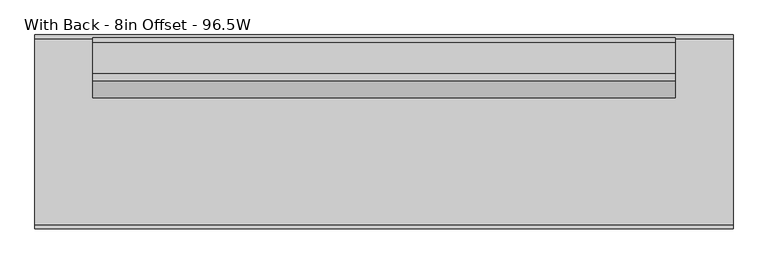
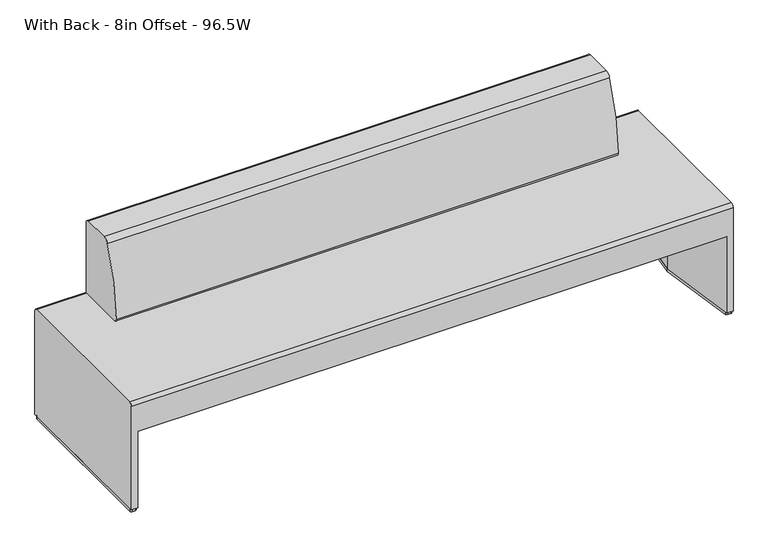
"""IFC4 building model written with IfcOpenShell, lengths in millimetres: furniture geometry, Coalesse_AM_Seating_Bench_Together_Straight : With Back - 8in Offset - 96.5W."""

from ifc_helpers import new_model, si_unit, point, frame, frame_2d, origin, origin_with_axes, place, context, project, spatial, polyline, circle_curve, trimmed, segment, composite_curve, outline, extrude, source, transform, mapped, element, save
from ifc_brep_helpers import plane_surface, cylinder_surface, advanced_brep


def with_back_8in_offset_96_5w_34442c8c(model_context):
    return source(origin(), model_context, "Body", "SolidModel", [
        advanced_brep(
        [(550.9224085, 12.7, 471.2287949), (550.9224085, 0.0, 458.5287949), (550.9224085, 0.0, 12.7976677), (550.9224085, 680.4865973, 12.7976677), (550.9224085, 680.4865973, 458.5287949), (550.9224085, 667.7865973, 471.2287949), (-1900.1775915, 12.7, 471.2287949), (-1900.1775915, 667.7865973, 471.2287949), (-1900.1775915, 680.4865973, 458.5287949), (-1900.1775915, 680.4865973, 12.7976677), (-1900.1775915, 0.0, 12.7976677), (-1900.1775915, 0.0, 458.5287949), (-1874.0008116, 0.0, 12.7976677), (-1874.0008116, 0.0, 343.3718099), (524.7467103, 0.0, 343.3718099), (524.7456286, 0.0, 12.7976677), (-1829.6693111, 337.8527218, 343.3718099), (-1874.3078635, 680.4865973, 343.3718099), (525.0526806, 680.4865973, 343.3718099), (480.4141281, 337.8527218, 343.3718099), (525.0537419, 680.4865973, 12.7976677), (-1874.3089248, 680.4865973, 12.7976677), (-1829.6693111, 337.8527218, 12.7976677), (480.4141281, 337.8527218, 12.7976677)],
        [
            (0, 1, circle_curve(frame((550.9224085, 12.7, 458.5287949), z_axis=(1.0, 0.0, 0.0), x_axis=(0.0, 1.0, 0.0)), 12.7)),
            (1, 2),
            (2, 3),
            (3, 4),
            (4, 5, circle_curve(frame((550.9224085, 667.7865973, 458.5287949), z_axis=(1.0, 0.0, 0.0), x_axis=(0.0, 1.0, 0.0)), 12.7)),
            (5, 0),
            (6, 7),
            (7, 8, circle_curve(frame((-1900.1775915, 667.7865973, 458.5287949), z_axis=(-1.0, 0.0, 0.0), x_axis=(0.0, 1.0, 0.0)), 12.7)),
            (8, 9),
            (9, 10),
            (10, 11),
            (11, 6, circle_curve(frame((-1900.1775915, 12.7, 458.5287949), z_axis=(-1.0, 0.0, 0.0), x_axis=(0.0, 1.0, 0.0)), 12.7)),
            (0, 6),
            (11, 1),
            (10, 12),
            (12, 13),
            (13, 14),
            (14, 15),
            (15, 2),
            (16, 17),
            (17, 18),
            (18, 19),
            (19, 14),
            (13, 16),
            (3, 20),
            (20, 18),
            (17, 21),
            (21, 9),
            (8, 4),
            (7, 5),
            (22, 12),
            (21, 22),
            (16, 22),
            (23, 20),
            (15, 23),
            (19, 23),
        ],
        [
            plane_surface(frame((550.9224085, 25.4, 458.5287949), z_axis=(1.0, 0.0, 0.0), x_axis=(0.0, 0.0, 1.0))),
            plane_surface(frame((-1900.1775915, 25.4, 458.5287949), z_axis=(-1.0, 0.0, 0.0), x_axis=(0.0, 0.0, -1.0))),
            cylinder_surface(frame((-1900.1775915, 12.7, 458.5287949), z_axis=(1.0, 0.0, 0.0), x_axis=(0.0, 1.0, 0.0)), 12.7),
            plane_surface(frame((550.9224085, 0.0, 458.5287949), z_axis=(0.0, -1.0, 0.0), x_axis=(-1.0, 0.0, 0.0))),
            plane_surface(frame((550.9224085, 0.0, 343.3718099), z_axis=(0.0, 0.0, -1.0), x_axis=(-1.0, 0.0, 0.0))),
            plane_surface(frame((550.9224085, 680.4865973, 343.3718099), z_axis=(0.0, 1.0, 0.0), x_axis=(-1.0, 0.0, 0.0))),
            cylinder_surface(frame((-1900.1775915, 667.7865973, 458.5287949), z_axis=(1.0, 0.0, 0.0), x_axis=(0.0, 1.0, 0.0)), 12.7),
            plane_surface(frame((550.9224085, 667.7865973, 471.2287949), z_axis=(0.0, 0.0, 1.0), x_axis=(-1.0, 0.0, 0.0))),
            plane_surface(frame((-1874.3089248, 680.4947435, 12.7976677), z_axis=(0.0, 0.0, -1.0), x_axis=(0.1291888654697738, -0.9916200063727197, 0.0))),
            plane_surface(frame((-1829.6693111, 337.8527218, 343.3718099), z_axis=(0.9916200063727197, 0.1291888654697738, 0.0), x_axis=(0.0, 0.0, -1.0))),
            plane_surface(frame((-1874.0008116, 0.0082432, 343.3718099), z_axis=(0.9915004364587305, -0.13010336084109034, 0.0), x_axis=(0.0, 0.0, -1.0))),
            plane_surface(frame((480.4141281, 337.8527218, 12.7976677), z_axis=(0.0, 0.0, -1.0), x_axis=(-0.13010336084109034, 0.9915004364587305, 0.0))),
            plane_surface(frame((480.4141281, 337.8527218, 343.3718099), z_axis=(-0.9915004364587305, -0.13010336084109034, 0.0), x_axis=(0.0, 0.0, -1.0))),
            plane_surface(frame((525.0537419, 680.4947435, 343.3718099), z_axis=(-0.9916200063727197, 0.12918886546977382, 0.0), x_axis=(0.0, 0.0, -1.0))),
        ],
        [
            (0, [[1, 2, 3, 4, 5, 6]]),
            (1, [[7, 8, 9, 10, 11, 12]]),
            (2, [[-1, 13, -12, 14]]),
            (3, [[-2, -14, -11, 15, 16, 17, 18, 19]]),
            (4, [[20, 21, 22, 23, -17, 24]]),
            (5, [[-4, 25, 26, -21, 27, 28, -9, 29]]),
            (6, [[-5, -29, -8, 30]]),
            (7, [[-6, -30, -7, -13]]),
            (8, [[31, -15, -10, -28, 32]]),
            (9, [[-32, -27, -20, 33]]),
            (10, [[-31, -33, -24, -16]]),
            (11, [[34, -25, -3, -19, 35]]),
            (12, [[-35, -18, -23, 36]]),
            (13, [[-34, -36, -22, -26]]),
        ],
    ),
        extrude(outline(composite_curve([segment(polyline([(543.9192067, 789.8987331), (655.2964795, 789.8987331)]), True, "CONTINUOUS"), segment(trimmed(circle_curve(frame_2d((655.2964795, 774.6587331)), 15.24), [point((655.2964795, 789.8987331))], [point((670.5364795, 774.6587331))], False, "CARTESIAN"), True, "CONTINUOUS"), segment(polyline([(670.5364795, 774.6587331), (670.5364795, 471.2287949), (472.3170333, 471.2287949)]), True, "CONTINUOUS"), segment(trimmed(circle_curve(frame_2d((472.3170333, 483.9287949)), 12.7), [point((472.3170333, 471.2287949))], [point((459.6227142, 484.3086129))], False, "CARTESIAN"), True, "CONTINUOUS"), segment(trimmed(circle_curve(frame_2d((1300.8534094, 459.138724)), 841.6071565), [point((459.6227142, 484.3086129))], [point((520.3637544, 774.0013994))], False, "CARTESIAN"), True, "CONTINUOUS"), segment(trimmed(circle_curve(frame_2d((543.9192067, 764.4987331)), 25.4), [point((520.3637544, 774.0013994))], [point((543.9192067, 789.8987331))], False, "CARTESIAN"), True, "CONTINUOUS")], self_intersect=False)), frame((-1696.9775915, 0.0, 0.0), z_axis=(1.0, 0.0, 0.0), x_axis=(0.0, 1.0, 0.0)), (0.0, 0.0, 1.0), 2044.7),
        extrude(outline(composite_curve([segment(polyline([(-1830.1253033, 342.7173042), (-1875.1256906, 11.5995062)]), True, "CONTINUOUS"), segment(trimmed(circle_curve(frame_2d((-1881.4178483, 12.4546385)), 6.35), [point((-1875.1256906, 11.5995062))], [point((-1881.4230349, 6.1046406))], False, "CARTESIAN"), True, "CONTINUOUS"), segment(polyline([(-1881.4230349, 6.1046406), (-1893.8802997, 6.1148157)]), True, "CONTINUOUS"), segment(trimmed(circle_curve(frame_2d((-1893.8751131, 12.4648135)), 6.35), [point((-1893.8802997, 6.1148157))], [point((-1900.225111, 12.4700002))], False, "CARTESIAN"), True, "CONTINUOUS"), segment(polyline([(-1900.225111, 12.4700002), (-1899.6895947, 668.1010803)]), True, "CONTINUOUS"), segment(trimmed(circle_curve(frame_2d((-1893.3395969, 668.0958937)), 6.35), [point((-1899.6895947, 668.1010803))], [point((-1893.3344102, 674.4458915))], False, "CARTESIAN"), True, "CONTINUOUS"), segment(polyline([(-1893.3344102, 674.4458915), (-1880.8113928, 674.4356628)]), True, "CONTINUOUS"), segment(trimmed(circle_curve(frame_2d((-1880.8171357, 667.4047129)), 7.0309522), [point((-1880.8113928, 674.4356628))], [point((-1873.8487233, 668.3404046))], False, "CARTESIAN"), True, "CONTINUOUS"), segment(polyline([(-1873.8487233, 668.3404046), (-1830.1253033, 342.7173042)]), True, "CONTINUOUS")], self_intersect=False)), origin_with_axes(), (0.0, 0.0, 1.0), 12.7976677),
        extrude(outline(composite_curve([segment(polyline([(480.8701204, 342.7173042), (524.5935403, 668.3404046)]), True, "CONTINUOUS"), segment(trimmed(circle_curve(frame_2d((531.5619527, 667.4047129)), 7.0309522), [point((524.5935403, 668.3404046))], [point((531.5562098, 674.4356628))], False, "CARTESIAN"), True, "CONTINUOUS"), segment(polyline([(531.5562098, 674.4356628), (544.0792272, 674.4458915)]), True, "CONTINUOUS"), segment(trimmed(circle_curve(frame_2d((544.0844139, 668.0958937)), 6.35), [point((544.0792272, 674.4458915))], [point((550.4344118, 668.1010803))], False, "CARTESIAN"), True, "CONTINUOUS"), segment(polyline([(550.4344118, 668.1010803), (550.969928, 12.4700002)]), True, "CONTINUOUS"), segment(trimmed(circle_curve(frame_2d((544.6199301, 12.4648135)), 6.35), [point((550.969928, 12.4700002))], [point((544.6251168, 6.1148157))], False, "CARTESIAN"), True, "CONTINUOUS"), segment(polyline([(544.6251168, 6.1148157), (532.167852, 6.1046406)]), True, "CONTINUOUS"), segment(trimmed(circle_curve(frame_2d((532.1626653, 12.4546385)), 6.35), [point((532.167852, 6.1046406))], [point((525.8705076, 11.5995062))], False, "CARTESIAN"), True, "CONTINUOUS"), segment(polyline([(525.8705076, 11.5995062), (480.8701204, 342.7173042)]), True, "CONTINUOUS")], self_intersect=False)), origin_with_axes(), (0.0, 0.0, 1.0), 12.7976677),
    ])


if __name__ == "__main__":
    model = new_model("IFC4")
    model_context = context("Model", 3, world=origin())
    ifc_project = project(units=[si_unit("LENGTHUNIT", "METRE", prefix="MILLI")], contexts=[model_context])
    site = spatial("IfcSite", under=ifc_project)
    building = spatial("IfcBuilding", under=site)
    placement = place(None, origin())
    with_back_8in_offset_96_5w_shape = with_back_8in_offset_96_5w_34442c8c(model_context)
    element("IfcFurniture", 1, ObjectType="Coalesse_AM_Seating_Bench_Together_Straight : With Back - 8in Offset - 96.5W", at=placement, inside=building, context=model_context, shape_type="MappedRepresentation", body=[
        mapped(with_back_8in_offset_96_5w_shape, transform((0.0, 0.0, 0.0), x_axis=(1.0, 0.0, 0.0), y_axis=(0.0, 1.0, 0.0), z_axis=(0.0, 0.0, 1.0))),
    ])
    save(model, "model.ifc")
